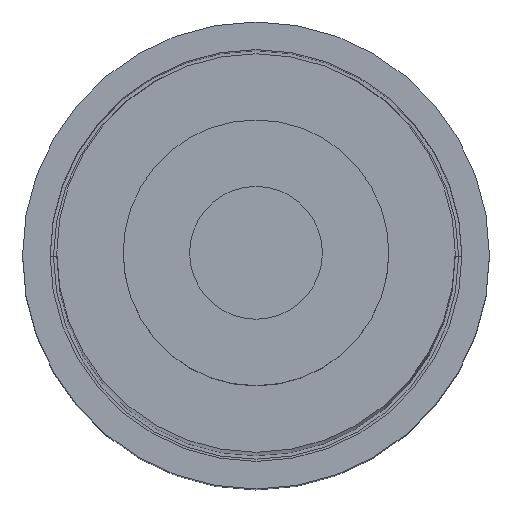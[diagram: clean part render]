
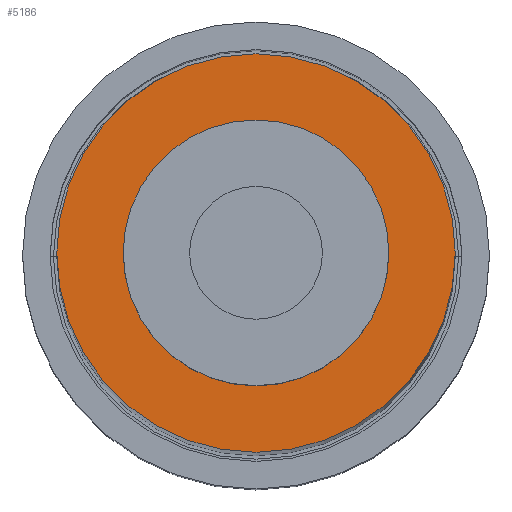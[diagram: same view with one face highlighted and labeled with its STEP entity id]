
A CAD part, top view. The second image highlights one B-rep face of the part: STEP entity #5186.
In plain terms, the highlighted planar face has unit normal (0, 0, 1).
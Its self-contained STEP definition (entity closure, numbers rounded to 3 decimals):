
#9 = EDGE_CURVE ( 'NONE', #5452, #5120, #4571, .T. ) ;
#80 = DIRECTION ( 'NONE',  ( 0., 0., 1. ) ) ;
#241 = PLANE ( 'NONE',  #2996 ) ;
#487 = ORIENTED_EDGE ( 'NONE', *, *, #9, .T. ) ;
#638 = FACE_OUTER_BOUND ( 'NONE', #3166, .T. ) ;
#989 = DIRECTION ( 'NONE',  ( 0., 0., 1. ) ) ;
#998 = CIRCLE ( 'NONE', #1571, 1. ) ;
#1004 = DIRECTION ( 'NONE',  ( 1., 0., 0. ) ) ;
#1253 = EDGE_CURVE ( 'NONE', #4861, #9818, #7115, .T. ) ;
#1301 = DIRECTION ( 'NONE',  ( 0., 0., 1. ) ) ;
#1571 = AXIS2_PLACEMENT_3D ( 'NONE', #8950, #4424, #9703 ) ;
#1899 = EDGE_LOOP ( 'NONE', ( #2584, #2542 ) ) ;
#2535 = EDGE_CURVE ( 'NONE', #5120, #5452, #4717, .T. ) ;
#2542 = ORIENTED_EDGE ( 'NONE', *, *, #1253, .F. ) ;
#2584 = ORIENTED_EDGE ( 'NONE', *, *, #7458, .F. ) ;
#2709 = CARTESIAN_POINT ( 'NONE',  ( -1.5, 0., 15. ) ) ;
#2996 = AXIS2_PLACEMENT_3D ( 'NONE', #4779, #5557, #1004 ) ;
#3166 = EDGE_LOOP ( 'NONE', ( #487, #8422 ) ) ;
#4016 = AXIS2_PLACEMENT_3D ( 'NONE', #5539, #989, #6290 ) ;
#4424 = DIRECTION ( 'NONE',  ( 0., 0., 1. ) ) ;
#4434 = FACE_BOUND ( 'NONE', #1899, .T. ) ;
#4571 = CIRCLE ( 'NONE', #5814, 1.5 ) ;
#4621 = CARTESIAN_POINT ( 'NONE',  ( 0., 0., 15. ) ) ;
#4717 = CIRCLE ( 'NONE', #4016, 1.5 ) ;
#4779 = CARTESIAN_POINT ( 'NONE',  ( 0., 0., 15. ) ) ;
#4861 = VERTEX_POINT ( 'NONE', #6649 ) ;
#5120 = VERTEX_POINT ( 'NONE', #5467 ) ;
#5186 = ADVANCED_FACE ( 'NONE', ( #638, #4434 ), #241, .T. ) ;
#5452 = VERTEX_POINT ( 'NONE', #2709 ) ;
#5467 = CARTESIAN_POINT ( 'NONE',  ( 1.5, 0., 15. ) ) ;
#5539 = CARTESIAN_POINT ( 'NONE',  ( 0., 0., 15. ) ) ;
#5557 = DIRECTION ( 'NONE',  ( 0., 0., 1. ) ) ;
#5814 = AXIS2_PLACEMENT_3D ( 'NONE', #4621, #80, #9529 ) ;
#5845 = CARTESIAN_POINT ( 'NONE',  ( 0., 0., 15. ) ) ;
#6290 = DIRECTION ( 'NONE',  ( 1., 0., 0. ) ) ;
#6602 = DIRECTION ( 'NONE',  ( 1., 0., 0. ) ) ;
#6649 = CARTESIAN_POINT ( 'NONE',  ( 1., 0., 15. ) ) ;
#6662 = CARTESIAN_POINT ( 'NONE',  ( -1., 0., 15. ) ) ;
#7115 = CIRCLE ( 'NONE', #8303, 1. ) ;
#7458 = EDGE_CURVE ( 'NONE', #9818, #4861, #998, .T. ) ;
#8303 = AXIS2_PLACEMENT_3D ( 'NONE', #5845, #1301, #6602 ) ;
#8422 = ORIENTED_EDGE ( 'NONE', *, *, #2535, .T. ) ;
#8950 = CARTESIAN_POINT ( 'NONE',  ( 0., 0., 15. ) ) ;
#9529 = DIRECTION ( 'NONE',  ( 1., 0., 0. ) ) ;
#9703 = DIRECTION ( 'NONE',  ( 1., 0., 0. ) ) ;
#9818 = VERTEX_POINT ( 'NONE', #6662 ) ;
